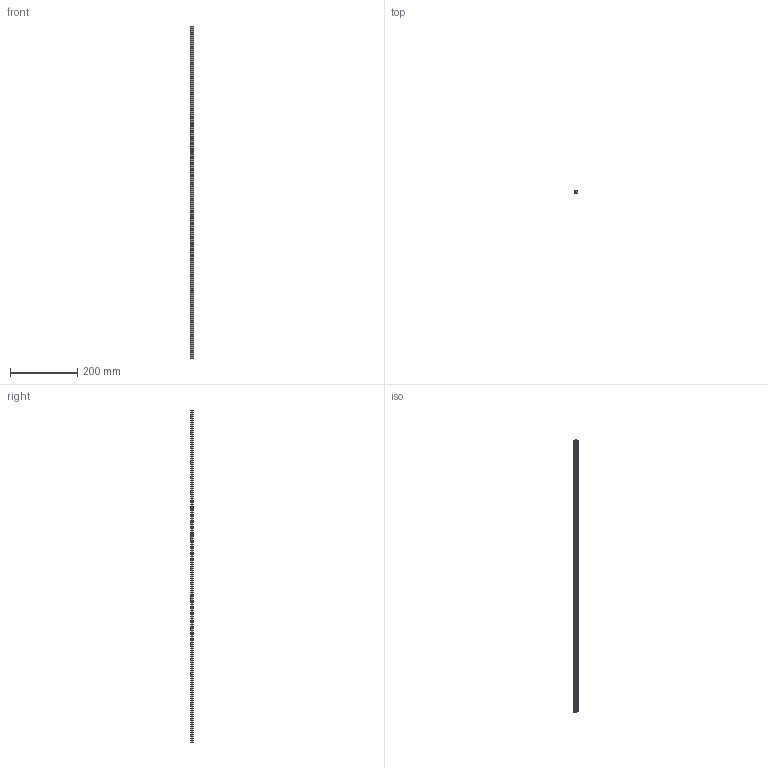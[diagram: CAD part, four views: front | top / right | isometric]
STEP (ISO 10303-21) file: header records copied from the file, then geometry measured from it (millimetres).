
FILE_DESCRIPTION(('STEP AP203'),'1');
FILE_NAME('slide_nmsel986p1.stp','2022-07-04T01:14:22',('TraceParts'),('TraceParts S.A.'),'Spatial InterOp 3D',' ',' ');
FILE_SCHEMA(('CONFIG_CONTROL_DESIGN'));
Length unit declared in the file: millimetre
Products named in the file (1): 1
Bounding box: 10.82 x 7.7 x 986 mm (x, y, z)
Volume: 60728.9 mm3; surface area: 40997 mm2
Topology: 1 solids, 1 shells, 135 faces, 333 edges, 222 vertices
Faces by surface type: cylinder 99, plane 36
Entity records: 4237 total; most frequent: DIRECTION 803, CARTESIAN_POINT 691, ORIENTED_EDGE 666, AXIS2_PLACEMENT_3D 334, EDGE_CURVE 333, VERTEX_POINT 222, EDGE_LOOP 201, CIRCLE 198
